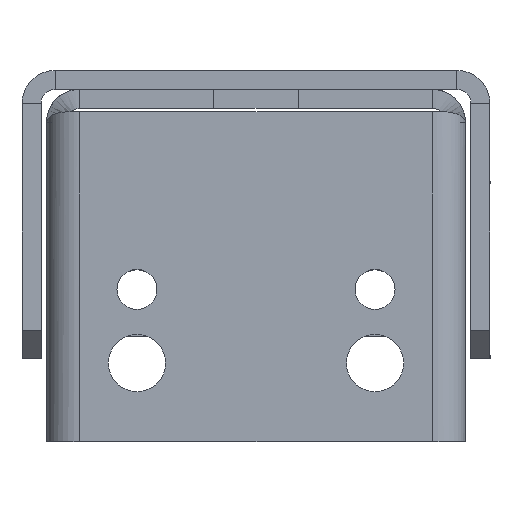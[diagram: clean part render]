
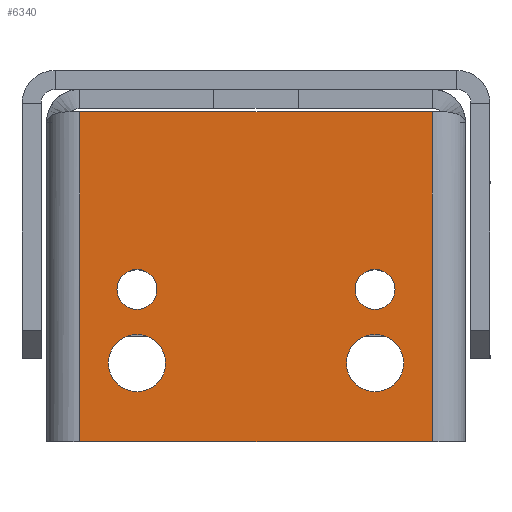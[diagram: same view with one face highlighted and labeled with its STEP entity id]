
A CAD part, left-side view. The second image highlights one B-rep face of the part: STEP entity #6340.
In plain terms, the highlighted planar face has unit normal (-1, 0, 0) as drawn and (0, 0, 1) by its records, which use the part's own axes.
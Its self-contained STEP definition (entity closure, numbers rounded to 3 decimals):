
#6340=ADVANCED_FACE('',(#12252,#12254,#12256,#12258,#12260),#12262,.F.);
#12252=FACE_BOUND('',#12253,.T.);
#12253=EDGE_LOOP('',(#16589,#16590,#16591,#16592));
#12254=FACE_BOUND('',#12255,.T.);
#12255=EDGE_LOOP('',(#16593));
#12256=FACE_BOUND('',#12257,.T.);
#12257=EDGE_LOOP('',(#16594));
#12258=FACE_BOUND('',#12259,.T.);
#12259=EDGE_LOOP('',(#16595));
#12260=FACE_BOUND('',#12261,.T.);
#12261=EDGE_LOOP('',(#16596));
#12262=PLANE('',#12263);
#12263=AXIS2_PLACEMENT_3D('',#12264,#12265,#12266);
#12264=CARTESIAN_POINT('',(18.5,22.,0.));
#12265=DIRECTION('',(0.,0.,-1.));
#12266=DIRECTION('',(-1.,0.,0.));
#16589=ORIENTED_EDGE('',*,*,#18663,.F.);
#16590=ORIENTED_EDGE('',*,*,#18664,.T.);
#16591=ORIENTED_EDGE('',*,*,#18665,.T.);
#16592=ORIENTED_EDGE('',*,*,#18666,.F.);
#16593=ORIENTED_EDGE('',*,*,#18613,.F.);
#16594=ORIENTED_EDGE('',*,*,#18615,.F.);
#16595=ORIENTED_EDGE('',*,*,#18617,.F.);
#16596=ORIENTED_EDGE('',*,*,#18619,.F.);
#18613=EDGE_CURVE('',#21913,#21913,#21914,.T.);
#18615=EDGE_CURVE('',#21917,#21917,#21918,.T.);
#18617=EDGE_CURVE('',#21921,#21921,#21922,.T.);
#18619=EDGE_CURVE('',#21925,#21925,#21926,.T.);
#18663=EDGE_CURVE('',#22005,#22006,#22007,.T.);
#18664=EDGE_CURVE('',#22005,#22008,#22009,.T.);
#18665=EDGE_CURVE('',#22008,#22010,#22011,.T.);
#18666=EDGE_CURVE('',#22006,#22010,#22012,.T.);
#21913=VERTEX_POINT('',#29793);
#21914=CIRCLE('',#29794,2.1);
#21917=VERTEX_POINT('',#29803);
#21918=CIRCLE('',#29804,3.);
#21921=VERTEX_POINT('',#29813);
#21922=CIRCLE('',#29814,2.1);
#21925=VERTEX_POINT('',#29823);
#21926=CIRCLE('',#29824,3.);
#22005=VERTEX_POINT('',#29993);
#22006=VERTEX_POINT('',#29994);
#22007=LINE('',#29995,#29996);
#22008=VERTEX_POINT('',#29998);
#22009=LINE('',#29999,#30000);
#22010=VERTEX_POINT('',#30002);
#22011=LINE('',#30003,#30004);
#22012=LINE('',#30006,#30007);
#29793=CARTESIAN_POINT('',(-0.4,-12.5,0.));
#29794=AXIS2_PLACEMENT_3D('',#29795,#29796,#29797);
#29795=CARTESIAN_POINT('',(-2.5,-12.5,0.));
#29796=DIRECTION('',(0.,0.,1.));
#29797=DIRECTION('',(-1.,0.,0.));
#29803=CARTESIAN_POINT('',(-7.25,-12.5,0.));
#29804=AXIS2_PLACEMENT_3D('',#29805,#29806,#29807);
#29805=CARTESIAN_POINT('',(-10.25,-12.5,0.));
#29806=DIRECTION('',(0.,0.,1.));
#29807=DIRECTION('',(-1.,0.,0.));
#29813=CARTESIAN_POINT('',(-0.4,12.5,0.));
#29814=AXIS2_PLACEMENT_3D('',#29815,#29816,#29817);
#29815=CARTESIAN_POINT('',(-2.5,12.5,0.));
#29816=DIRECTION('',(0.,0.,1.));
#29817=DIRECTION('',(-1.,0.,0.));
#29823=CARTESIAN_POINT('',(-7.25,12.5,0.));
#29824=AXIS2_PLACEMENT_3D('',#29825,#29826,#29827);
#29825=CARTESIAN_POINT('',(-10.25,12.5,0.));
#29826=DIRECTION('',(0.,0.,1.));
#29827=DIRECTION('',(-1.,0.,0.));
#29993=CARTESIAN_POINT('',(16.146,18.5,0.));
#29994=CARTESIAN_POINT('',(16.146,-18.5,0.));
#29995=CARTESIAN_POINT('',(16.146,18.5,0.));
#29996=VECTOR('',#29997,1.);
#29997=DIRECTION('',(0.,-1.,0.));
#29998=CARTESIAN_POINT('',(-18.5,18.5,0.));
#29999=CARTESIAN_POINT('',(16.146,18.5,0.));
#30000=VECTOR('',#30001,1.);
#30001=DIRECTION('',(-1.,0.,0.));
#30002=CARTESIAN_POINT('',(-18.5,-18.5,0.));
#30003=CARTESIAN_POINT('',(-18.5,18.5,0.));
#30004=VECTOR('',#30005,1.);
#30005=DIRECTION('',(0.,-1.,0.));
#30006=CARTESIAN_POINT('',(16.146,-18.5,0.));
#30007=VECTOR('',#30008,1.);
#30008=DIRECTION('',(-1.,0.,0.));
